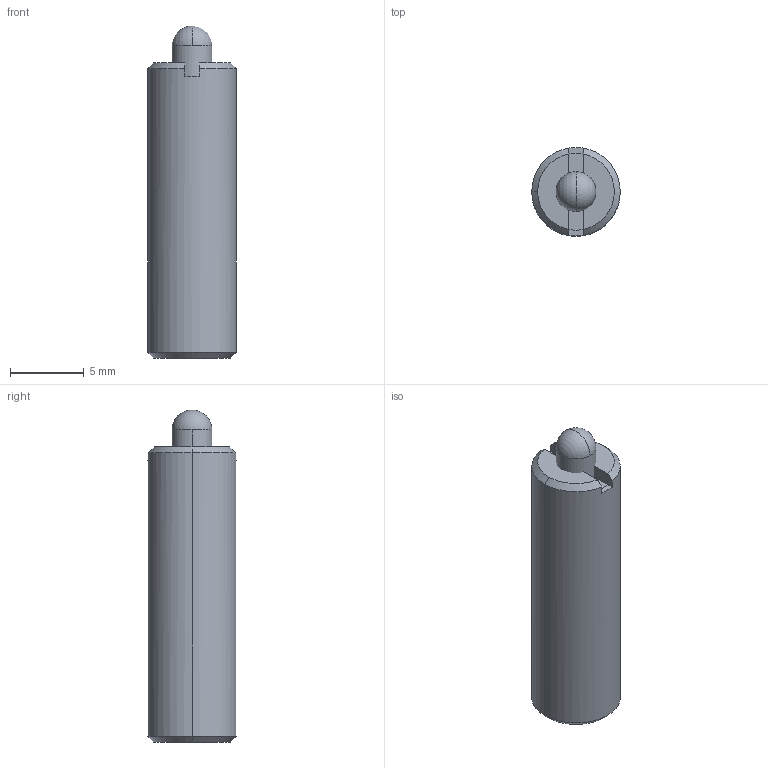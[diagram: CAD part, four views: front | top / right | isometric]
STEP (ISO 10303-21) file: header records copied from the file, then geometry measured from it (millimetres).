
FILE_DESCRIPTION (( 'STEP AP214' ), '1' );
FILE_NAME ('BruyRubio_BR372__6.STEP', '2019-12-30T10:17:32', ( '' ), ( '' ), 'SwSTEP 2.0', 'SolidWorks 2017', '' );
FILE_SCHEMA (( 'AUTOMOTIVE_DESIGN' ));
Length unit declared in the file: millimetre
Products named in the file (1): BruyRubio_BR372__6
Bounding box: 6 x 6 x 22.5 mm (x, y, z)
Volume: 567.9 mm3; surface area: 1132.4 mm2
Topology: 3 solids, 3 shells, 35 faces, 87 edges, 55 vertices
Faces by surface type: plane 20, cylinder 8, cone 5, sphere 2
Entity records: 1476 total; most frequent: CARTESIAN_POINT 188, DIRECTION 185, ORIENTED_EDGE 170, EDGE_CURVE 85, AXIS2_PLACEMENT_3D 68, VERTEX_POINT 55, VECTOR 49, LINE 49
